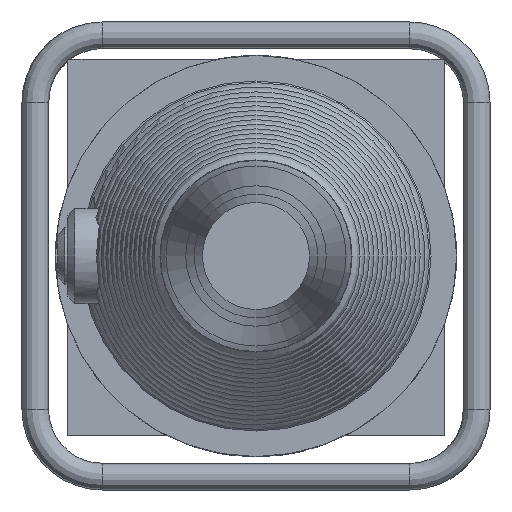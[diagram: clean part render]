
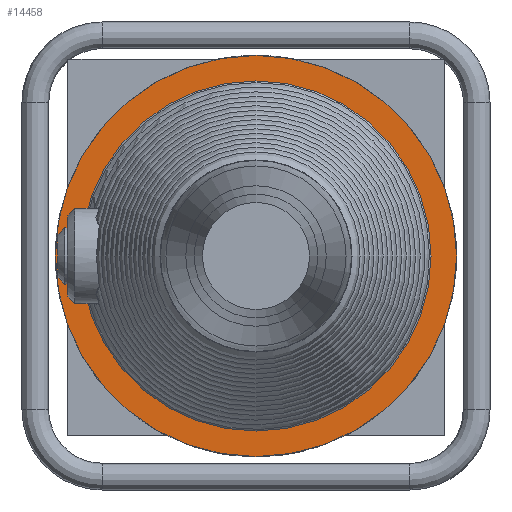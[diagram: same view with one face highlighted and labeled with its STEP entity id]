
A CAD part, left-side view. The second image highlights one B-rep face of the part: STEP entity #14458.
In plain terms, the highlighted planar face has unit normal (-1, 0, 0).
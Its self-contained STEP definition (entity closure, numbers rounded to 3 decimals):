
#1425=PLANE('',#15294);
#3479=FACE_BOUND('',#5234,.T.);
#4290=FACE_OUTER_BOUND('',#5233,.T.);
#5233=EDGE_LOOP('',(#13158));
#5234=EDGE_LOOP('',(#13159));
#5659=CIRCLE('',#15231,120.);
#5675=CIRCLE('',#15295,104.728);
#7068=VERTEX_POINT('',#30956);
#7092=VERTEX_POINT('',#33279);
#9101=EDGE_CURVE('',#7068,#7068,#5659,.T.);
#9139=EDGE_CURVE('',#7092,#7092,#5675,.T.);
#13158=ORIENTED_EDGE('',*,*,#9101,.F.);
#13159=ORIENTED_EDGE('',*,*,#9139,.T.);
#14458=ADVANCED_FACE('',(#4290,#3479),#1425,.T.);
#15231=AXIS2_PLACEMENT_3D('',#30957,#17701,#17702);
#15294=AXIS2_PLACEMENT_3D('',#33278,#17848,#17849);
#15295=AXIS2_PLACEMENT_3D('',#33280,#17850,#17851);
#17701=DIRECTION('center_axis',(1.,0.,0.));
#17702=DIRECTION('ref_axis',(0.,0.,
1.));
#17848=DIRECTION('center_axis',(-1.,0.,0.));
#17849=DIRECTION('ref_axis',(0.,1.,0.));
#17850=DIRECTION('center_axis',(1.,0.,0.));
#17851=DIRECTION('ref_axis',(0.,0.,
1.));
#30956=CARTESIAN_POINT('',(-345.651,0.,120.));
#30957=CARTESIAN_POINT('Origin',(-345.651,0.,
0.));
#33278=CARTESIAN_POINT('Origin',(-345.651,0.,
112.364));
#33279=CARTESIAN_POINT('',(-345.651,0.,104.728));
#33280=CARTESIAN_POINT('Origin',(-345.651,0.,
0.));
